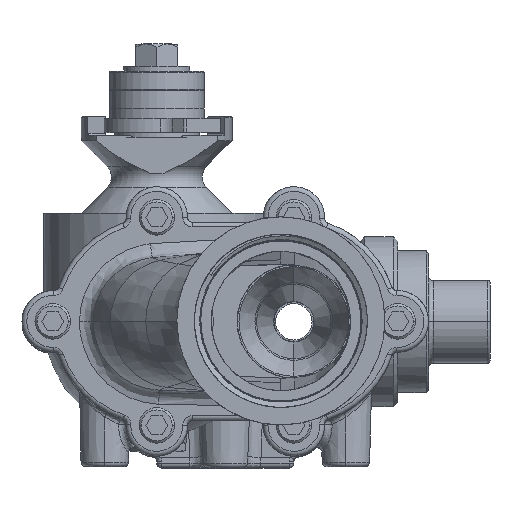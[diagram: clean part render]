
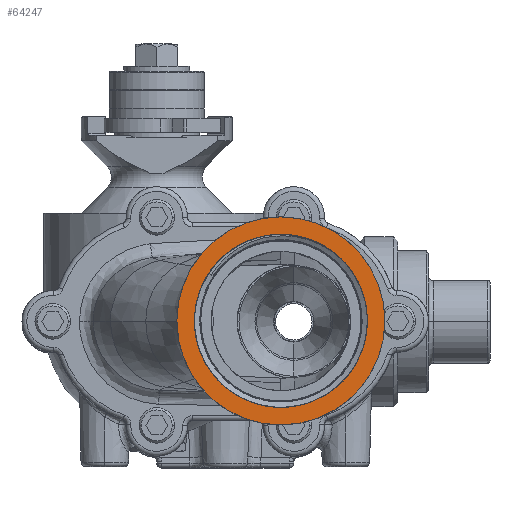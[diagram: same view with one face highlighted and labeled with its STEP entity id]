
A CAD part, top view. The second image highlights one B-rep face of the part: STEP entity #64247.
In plain terms, the highlighted planar face has unit normal (0, 0, 1).
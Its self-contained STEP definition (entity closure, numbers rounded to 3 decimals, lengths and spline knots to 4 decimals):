
#59015=CARTESIAN_POINT('',(1.641,0.,8.598));
#59016=DIRECTION('',(0.,0.,-1.));
#59017=DIRECTION('',(1.,0.,0.));
#59018=AXIS2_PLACEMENT_3D('',#59015,#59016,#59017);
#59020=CARTESIAN_POINT('',(1.641,0.,8.598));
#59021=DIRECTION('',(0.,0.,-1.));
#59022=DIRECTION('',(-1.,0.,0.));
#59023=AXIS2_PLACEMENT_3D('',#59020,#59021,#59022);
#59025=CARTESIAN_POINT('',(1.641,0.,8.598));
#59026=DIRECTION('',(0.,0.,1.));
#59027=DIRECTION('',(-1.,0.,0.));
#59028=AXIS2_PLACEMENT_3D('',#59025,#59026,#59027);
#59030=CARTESIAN_POINT('',(1.641,0.,8.598));
#59031=DIRECTION('',(0.,0.,1.));
#59032=DIRECTION('',(1.,0.,0.));
#59033=AXIS2_PLACEMENT_3D('',#59030,#59031,#59032);
#61063=CARTESIAN_POINT('',(3.016,0.,8.598));
#61064=CARTESIAN_POINT('',(0.266,0.,8.598));
#61065=VERTEX_POINT('',#61063);
#61066=VERTEX_POINT('',#61064);
#61081=CARTESIAN_POINT('',(0.496,0.,8.598));
#61082=CARTESIAN_POINT('',(2.786,0.,8.598));
#61083=VERTEX_POINT('',#61081);
#61084=VERTEX_POINT('',#61082);
#64232=CARTESIAN_POINT('',(1.641,0.,8.598));
#64233=DIRECTION('',(0.,0.,1.));
#64234=DIRECTION('',(1.,0.,0.));
#64235=AXIS2_PLACEMENT_3D('',#64232,#64233,#64234);
#64236=PLANE('',#64235);
#64238=ORIENTED_EDGE('',*,*,#64237,.T.);
#64240=ORIENTED_EDGE('',*,*,#64239,.T.);
#64241=EDGE_LOOP('',(#64238,#64240));
#64242=FACE_OUTER_BOUND('',#64241,.F.);
#64243=ORIENTED_EDGE('',*,*,#62794,.T.);
#64244=ORIENTED_EDGE('',*,*,#62665,.T.);
#64245=EDGE_LOOP('',(#64243,#64244));
#64246=FACE_BOUND('',#64245,.F.);
#59019=CIRCLE('',#59018,1.375);
#59024=CIRCLE('',#59023,1.375);
#59029=CIRCLE('',#59028,1.145);
#59034=CIRCLE('',#59033,1.145);
#62665=EDGE_CURVE('',#61084,#61083,#59034,.T.);
#62794=EDGE_CURVE('',#61083,#61084,#59029,.T.);
#64237=EDGE_CURVE('',#61065,#61066,#59019,.T.);
#64239=EDGE_CURVE('',#61066,#61065,#59024,.T.);
#64247=ADVANCED_FACE('',(#64242,#64246),#64236,.T.);
